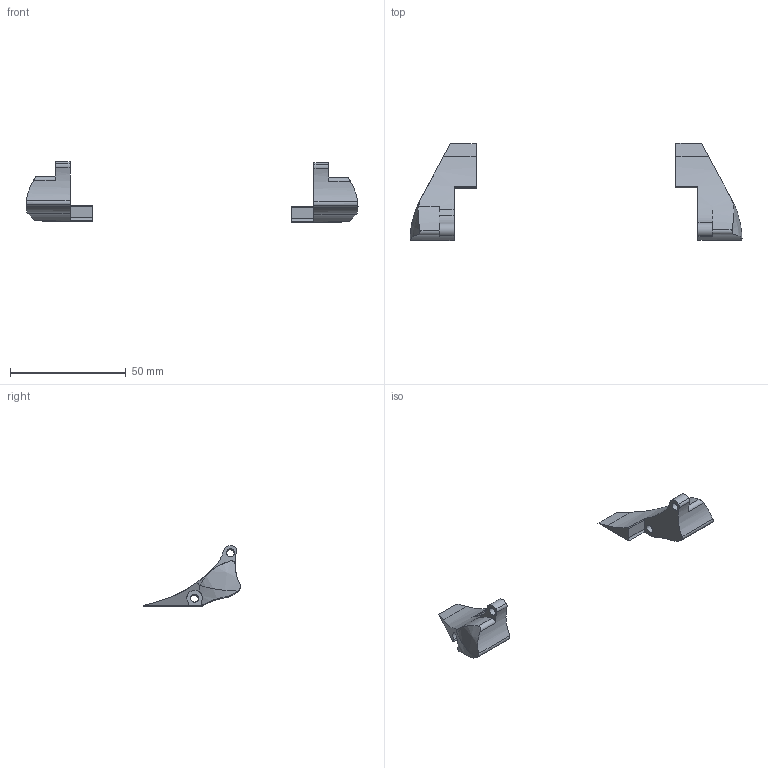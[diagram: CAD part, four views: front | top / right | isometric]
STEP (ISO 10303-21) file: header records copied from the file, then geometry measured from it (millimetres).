
FILE_DESCRIPTION(/* description */ (''),/* implementation_level */ '2;1');
FILE_NAME(/* name */ 'garres.step',/* time_stamp */ '2026-03-08T22:53:32+01:00',/* author */ (''),/* organization */ (''),/* preprocessor_version */ 'ST-DEVELOPER v20.1',/* originating_system */ 'Autodesk Translation Framework v14.24.0.0',/* authorisation */ '');
FILE_SCHEMA (('AUTOMOTIVE_DESIGN { 1 0 10303 214 3 1 1 }'));
Length unit declared in the file: millimetre
Products named in the file (4): Flanders (v3~recovered); Jigsaw V1 Robot Assembly; Front Wheel Guard Forks Edition; Front Wheel Guard Forks Edition Alternate
Assembly tree (3 placements, depth 3):
  Flanders (v3~recovered)
    Jigsaw V1 Robot Assembly
      Front Wheel Guard Forks Edition
      Front Wheel Guard Forks Edition Alternate
Bounding box: 143.36 x 42.01 x 26.32 mm (x, y, z)
Volume: 10516.5 mm3; surface area: 5359.1 mm2
Topology: 2 solids, 2 shells, 64 faces, 178 edges, 118 vertices
Faces by surface type: cylinder 42, plane 18, bspline 4
Full cylindrical faces by diameter (mm): 3.429 x4
Entity records: 2487 total; most frequent: CARTESIAN_POINT 672, DIRECTION 364, ORIENTED_EDGE 356, EDGE_CURVE 178, AXIS2_PLACEMENT_3D 144, VERTEX_POINT 118, LINE 76, VECTOR 76
